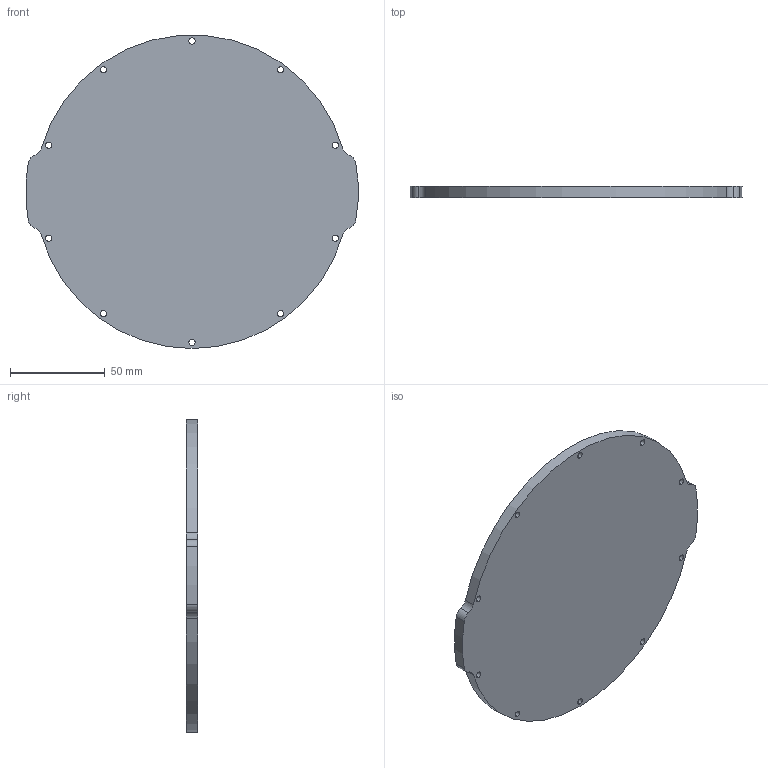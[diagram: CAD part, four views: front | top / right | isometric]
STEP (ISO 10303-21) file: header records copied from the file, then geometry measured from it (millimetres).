
FILE_DESCRIPTION (( 'STEP AP203' ), '1' );
FILE_NAME ('WTE6-M-END-CAP-R1.STEP', '2017-01-11T22:20:09', ( '' ), ( '' ), 'SwSTEP 2.0', 'SolidWorks 2014', '' );
FILE_SCHEMA (( 'CONFIG_CONTROL_DESIGN' ));
Length unit declared in the file: millimetre
Products named in the file (1): WTE6-M-END-CAP-R1
Bounding box: 174.8 x 6 x 164.79 mm (x, y, z)
Volume: 130238.5 mm3; surface area: 47217.5 mm2
Topology: 1 solids, 1 shells, 35 faces, 99 edges, 66 vertices
Faces by surface type: cylinder 33, plane 2
Entity records: 1296 total; most frequent: DIRECTION 237, CARTESIAN_POINT 201, ORIENTED_EDGE 198, AXIS2_PLACEMENT_3D 102, EDGE_CURVE 99, VERTEX_POINT 66, CIRCLE 66, EDGE_LOOP 55
